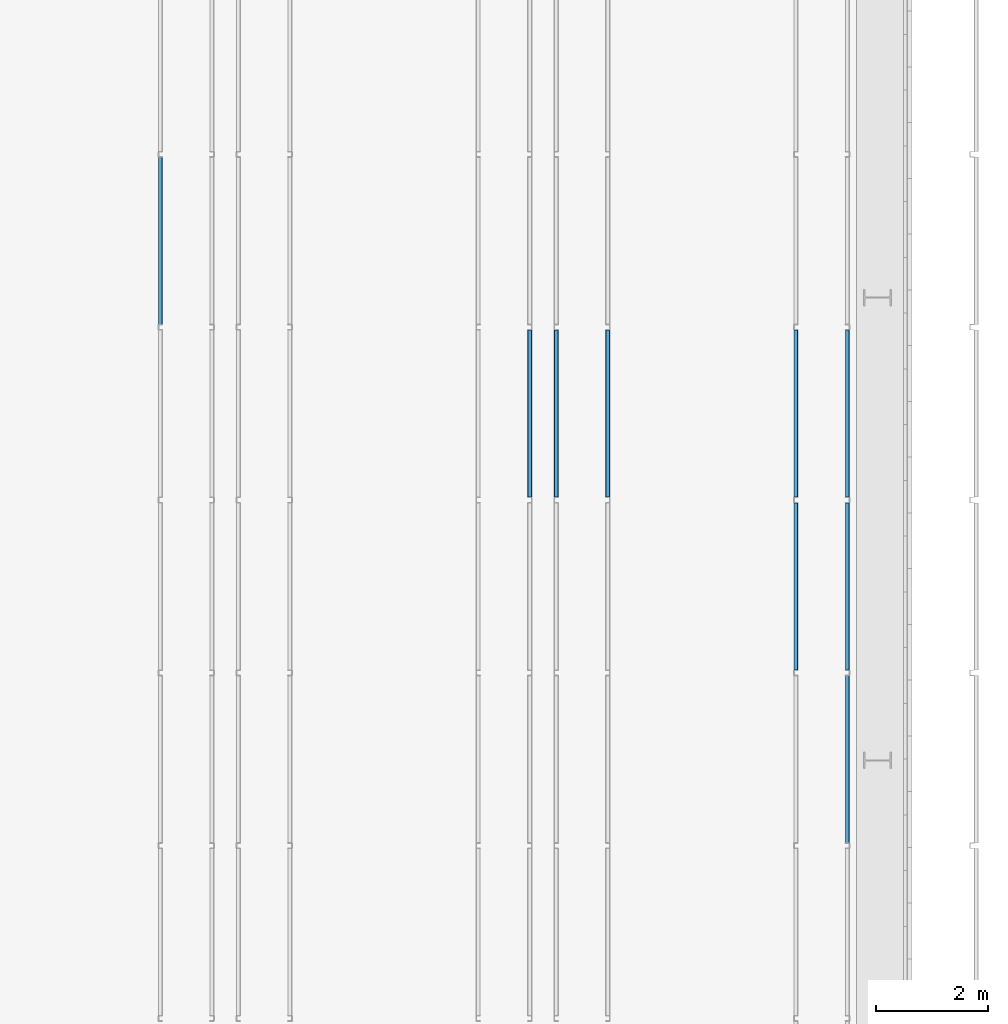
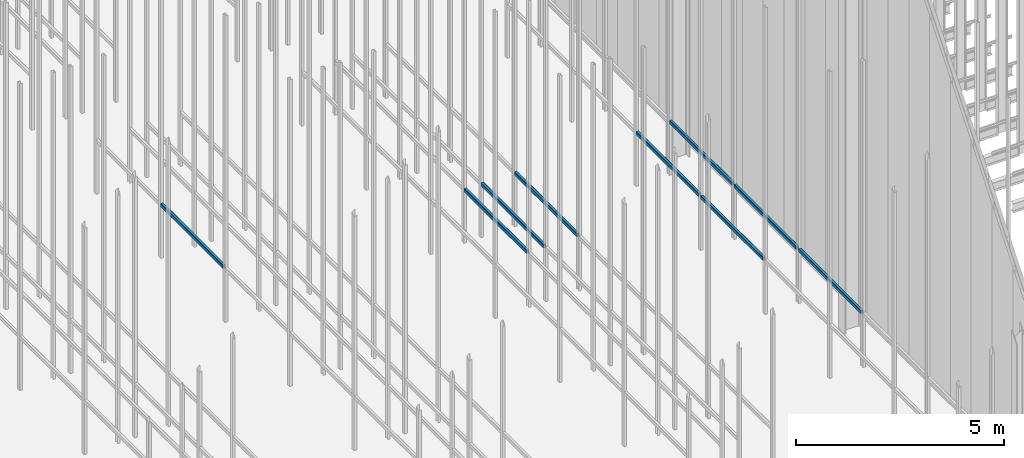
# One storey, part 150 of 302: 9 beams.
"""IFC2X3 building model written with IfcOpenShell, lengths in metres."""

from ifc_helpers import new_model, entity, si_unit, converted_unit, derived_unit, direction, frame, frame_2d, origin, place, context, subcontext, project, spatial, polyline, circle_curve, parameter, trimmed, segment, composite_curve, outline, extrude, material, type_object, element, save


model = new_model("IFC2X3")

# Units and contexts
model_context = context("Model", 3, precision=1e-05, world=origin(), true_north=direction((6.12303176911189e-17, 1.0)))
body_context = subcontext(model_context, "Body", "Model", "MODEL_VIEW")
ifc_project = project(units=[si_unit("LENGTHUNIT", "METRE"), si_unit("AREAUNIT", "SQUARE_METRE"), si_unit("VOLUMEUNIT", "CUBIC_METRE"), converted_unit("PLANEANGLEUNIT", "DEGREE", entity("IfcRatioMeasure", 0.0174532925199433), si_unit("PLANEANGLEUNIT", "RADIAN"), dimensions=[0, 0, 0, 0, 0, 0, 0]), si_unit("MASSUNIT", "GRAM", prefix="KILO"), derived_unit("MASSDENSITYUNIT", [(si_unit("MASSUNIT", "GRAM", prefix="KILO"), 1), (si_unit("LENGTHUNIT", "METRE"), -3)]), derived_unit("MOMENTOFINERTIAUNIT", [(si_unit("LENGTHUNIT", "METRE"), 4)]), si_unit("TIMEUNIT", "SECOND"), si_unit("FREQUENCYUNIT", "HERTZ"), si_unit("THERMODYNAMICTEMPERATUREUNIT", "DEGREE_CELSIUS"), derived_unit("THERMALTRANSMITTANCEUNIT", [(si_unit("MASSUNIT", "GRAM", prefix="KILO"), 1), (si_unit("THERMODYNAMICTEMPERATUREUNIT", "KELVIN"), -1), (si_unit("TIMEUNIT", "SECOND"), -3)]), derived_unit("VOLUMETRICFLOWRATEUNIT", [(si_unit("LENGTHUNIT", "METRE"), 3), (si_unit("TIMEUNIT", "SECOND"), -1)]), si_unit("ELECTRICCURRENTUNIT", "AMPERE"), si_unit("ELECTRICVOLTAGEUNIT", "VOLT"), si_unit("POWERUNIT", "WATT"), si_unit("FORCEUNIT", "NEWTON", prefix="KILO"), si_unit("ILLUMINANCEUNIT", "LUX"), si_unit("LUMINOUSFLUXUNIT", "LUMEN"), si_unit("LUMINOUSINTENSITYUNIT", "CANDELA"), derived_unit("USERDEFINED", [(si_unit("MASSUNIT", "GRAM", prefix="KILO"), -1), (si_unit("LENGTHUNIT", "METRE"), -2), (si_unit("TIMEUNIT", "SECOND"), 3), (si_unit("LUMINOUSFLUXUNIT", "LUMEN"), 1)]), derived_unit("LINEARVELOCITYUNIT", [(si_unit("LENGTHUNIT", "METRE"), 1), (si_unit("TIMEUNIT", "SECOND"), -1)]), si_unit("PRESSUREUNIT", "PASCAL"), derived_unit("USERDEFINED", [(si_unit("LENGTHUNIT", "METRE"), -2), (si_unit("MASSUNIT", "GRAM", prefix="KILO"), 1), (si_unit("TIMEUNIT", "SECOND"), -2)]), derived_unit("LINEARFORCEUNIT", [(si_unit("MASSUNIT", "GRAM", prefix="KILO"), 1), (si_unit("LENGTHUNIT", "METRE"), 1), (si_unit("TIMEUNIT", "SECOND"), -2), (si_unit("LENGTHUNIT", "METRE"), -1)]), derived_unit("PLANARFORCEUNIT", [(si_unit("MASSUNIT", "GRAM", prefix="KILO"), 1), (si_unit("LENGTHUNIT", "METRE"), 1), (si_unit("TIMEUNIT", "SECOND"), -2), (si_unit("LENGTHUNIT", "METRE"), -2)])], contexts=[model_context])

# Site, building, storey
site_placement = place(None, origin())
site = spatial("IfcSite", under=ifc_project, at=site_placement, Name="Default", CompositionType="ELEMENT")
building_placement = place(site_placement, origin())
building = spatial("IfcBuilding", under=site, at=building_placement, CompositionType="ELEMENT")
storey_placement = place(building_placement, frame((0.0, 0.0, -1.3)))
storey = spatial("IfcBuildingStorey", under=building, at=storey_placement, Name="00_EG", CompositionType="ELEMENT", Elevation=-1.3)

# Beams
ifc_material = material(Name="Metall - Baustahl S235 blau")
beam_type = type_object("IfcBeamType", Name="RHS Träger (EN 10219-2):RHS 100 x 75 x 5", PredefinedType="NOTDEFINED")
beam_1_placement = place(storey_placement, frame((-178.465111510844, 30.248088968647, 2.885), z_axis=(0.0, 0.0, 1.0), x_axis=(0.0, 1.0, 0.0)))
element("IfcBeam", 1, at=beam_1_placement, inside=storey, type_object=beam_type, material=ifc_material, Name="RHS Träger (EN 10219-2):RHS 100 x 75 x 5", ObjectType="RHS Träger (EN 10219-2):RHS 100 x 75 x 5", context=body_context, shape_type="SweptSolid", body=[
    extrude(outline(composite_curve([segment(polyline([(-0.0399999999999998, -0.0374999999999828), (0.0400000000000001, -0.0374999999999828)]), True, "CONTINUOUS"), segment(trimmed(circle_curve(frame_2d((0.0399999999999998, -0.0274999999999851), x_axis=(0.0, 1.0)), 0.01), [parameter(180.0)], [parameter(270.0)], True, "PARAMETER"), True, "CONTINUOUS"), segment(polyline([(0.05, -0.0274999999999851), (0.05, 0.0274999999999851)]), True, "CONTINUOUS"), segment(trimmed(circle_curve(frame_2d((0.0399999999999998, 0.0274999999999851), x_axis=(0.0, 1.0)), 0.01), [parameter(270.0)], [parameter(4.07110999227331e-13)], True, "PARAMETER"), True, "CONTINUOUS"), segment(polyline([(0.0400000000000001, 0.0375000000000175), (-0.0399999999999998, 0.0375000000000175)]), True, "CONTINUOUS"), segment(trimmed(circle_curve(frame_2d((-0.0400000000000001, 0.0274999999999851), x_axis=(0.0, 1.0)), 0.01), [parameter(360.0)], [parameter(90.0000000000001)], True, "PARAMETER"), True, "CONTINUOUS"), segment(polyline([(-0.05, 0.0274999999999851), (-0.05, -0.0274999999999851)]), True, "CONTINUOUS"), segment(trimmed(circle_curve(frame_2d((-0.0400000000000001, -0.0274999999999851), x_axis=(0.0, 1.0)), 0.01), [parameter(90.0000000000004)], [parameter(180.0)], True, "PARAMETER"), True, "CONTINUOUS")], self_intersect=False), holes=[composite_curve([segment(trimmed(circle_curve(frame_2d((-0.0400000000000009, 0.0274999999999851), x_axis=(0.0, 1.0)), 0.005), [parameter(360.0)], [parameter(89.9999999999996)], True, "PARAMETER"), False, "CONTINUOUS"), segment(polyline([(-0.0400000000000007, 0.0325000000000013), (0.0399999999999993, 0.0325000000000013)]), True, "CONTINUOUS"), segment(trimmed(circle_curve(frame_2d((0.039999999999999, 0.0274999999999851), x_axis=(0.0, 1.0)), 0.005), [parameter(270.0)], [parameter(0.0)], True, "PARAMETER"), False, "CONTINUOUS"), segment(polyline([(0.0449999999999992, 0.0274999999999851), (0.0449999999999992, -0.0274999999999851)]), True, "CONTINUOUS"), segment(trimmed(circle_curve(frame_2d((0.039999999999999, -0.0274999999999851), x_axis=(0.0, 1.0)), 0.005), [parameter(180.0)], [parameter(269.999999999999)], True, "PARAMETER"), False, "CONTINUOUS"), segment(polyline([(0.0399999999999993, -0.0325000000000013), (-0.0400000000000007, -0.0325000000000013)]), True, "CONTINUOUS"), segment(trimmed(circle_curve(frame_2d((-0.0400000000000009, -0.0274999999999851), x_axis=(0.0, 1.0)), 0.005), [parameter(90.0000000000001)], [parameter(180.0)], True, "PARAMETER"), False, "CONTINUOUS"), segment(polyline([(-0.0450000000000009, -0.0274999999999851), (-0.0450000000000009, 0.0274999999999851)]), True, "CONTINUOUS")], self_intersect=False)]), frame((0.00010000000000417, -0.0375000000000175, -0.0500000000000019), z_axis=(1.0, 0.0, 0.0), x_axis=(0.0, 0.0, -1.0)), (0.0, 0.0, 1.0), 2.9998),
])
beam_2_placement = place(storey_placement, frame((-179.315111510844, 33.3480889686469, 2.885), z_axis=(0.0, 0.0, 1.0), x_axis=(0.0, 1.0, 0.0)))
element("IfcBeam", 2, at=beam_2_placement, inside=storey, type_object=beam_type, material=ifc_material, Name="RHS Träger (EN 10219-2):RHS 100 x 75 x 5", ObjectType="RHS Träger (EN 10219-2):RHS 100 x 75 x 5", context=body_context, shape_type="SweptSolid", body=[
    extrude(outline(composite_curve([segment(trimmed(circle_curve(frame_2d((-0.0274999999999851, -0.0400000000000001), x_axis=(1.0, 0.0)), 0.01), [parameter(180.0)], [parameter(270.0)], True, "PARAMETER"), True, "CONTINUOUS"), segment(polyline([(-0.0274999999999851, -0.05), (0.0274999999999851, -0.05)]), True, "CONTINUOUS"), segment(trimmed(circle_curve(frame_2d((0.0274999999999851, -0.0400000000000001), x_axis=(1.0, 0.0)), 0.01), [parameter(270.0)], [parameter(5.08888749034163e-14)], True, "PARAMETER"), True, "CONTINUOUS"), segment(polyline([(0.0375000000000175, -0.0399999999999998), (0.0375000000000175, 0.0400000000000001)]), True, "CONTINUOUS"), segment(trimmed(circle_curve(frame_2d((0.0274999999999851, 0.0399999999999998), x_axis=(1.0, 0.0)), 0.01), [parameter(360.0)], [parameter(89.9999999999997)], True, "PARAMETER"), True, "CONTINUOUS"), segment(polyline([(0.0274999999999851, 0.05), (-0.0274999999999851, 0.05)]), True, "CONTINUOUS"), segment(trimmed(circle_curve(frame_2d((-0.0274999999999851, 0.0399999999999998), x_axis=(1.0, 0.0)), 0.01), [parameter(90.0000000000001)], [parameter(180.0)], True, "PARAMETER"), True, "CONTINUOUS"), segment(polyline([(-0.0374999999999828, 0.0400000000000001), (-0.0374999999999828, -0.0399999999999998)]), True, "CONTINUOUS")], self_intersect=False), holes=[composite_curve([segment(polyline([(0.0274999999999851, -0.0450000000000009), (-0.0274999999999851, -0.0450000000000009)]), True, "CONTINUOUS"), segment(trimmed(circle_curve(frame_2d((-0.0274999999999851, -0.0400000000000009), x_axis=(1.0, 0.0)), 0.005), [parameter(180.0)], [parameter(270.0)], True, "PARAMETER"), False, "CONTINUOUS"), segment(polyline([(-0.0325000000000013, -0.0400000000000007), (-0.0325000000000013, 0.0399999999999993)]), True, "CONTINUOUS"), segment(trimmed(circle_curve(frame_2d((-0.0274999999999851, 0.039999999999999), x_axis=(1.0, 0.0)), 0.005), [parameter(90.0000000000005)], [parameter(180.0)], True, "PARAMETER"), False, "CONTINUOUS"), segment(polyline([(-0.0274999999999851, 0.0449999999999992), (0.0274999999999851, 0.0449999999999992)]), True, "CONTINUOUS"), segment(trimmed(circle_curve(frame_2d((0.0274999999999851, 0.039999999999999), x_axis=(1.0, 0.0)), 0.005), [parameter(0.0)], [parameter(90.0000000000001)], True, "PARAMETER"), False, "CONTINUOUS"), segment(polyline([(0.0325000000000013, 0.0399999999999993), (0.0325000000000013, -0.0400000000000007)]), True, "CONTINUOUS"), segment(trimmed(circle_curve(frame_2d((0.0274999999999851, -0.0400000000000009), x_axis=(1.0, 0.0)), 0.005), [parameter(270.0)], [parameter(4.07110999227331e-13)], True, "PARAMETER"), False, "CONTINUOUS")], self_intersect=False)]), frame((9.99999999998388e-05, 0.0375000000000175, -0.0500000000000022), z_axis=(1.0, 0.0, 0.0), x_axis=(0.0, -1.0, 0.0)), (0.0, 0.0, 1.0), 2.9998),
])
beam_3_placement = place(storey_placement, frame((-178.465111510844, 33.3480889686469, 2.885), z_axis=(0.0, 0.0, 1.0), x_axis=(0.0, 1.0, 0.0)))
element("IfcBeam", 3, at=beam_3_placement, inside=storey, type_object=beam_type, material=ifc_material, Name="RHS Träger (EN 10219-2):RHS 100 x 75 x 5", ObjectType="RHS Träger (EN 10219-2):RHS 100 x 75 x 5", context=body_context, shape_type="SweptSolid", body=[
    extrude(outline(composite_curve([segment(polyline([(-0.0399999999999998, -0.0374999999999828), (0.0400000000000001, -0.0374999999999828)]), True, "CONTINUOUS"), segment(trimmed(circle_curve(frame_2d((0.0399999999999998, -0.0274999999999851), x_axis=(0.0, 1.0)), 0.01), [parameter(180.0)], [parameter(270.0)], True, "PARAMETER"), True, "CONTINUOUS"), segment(polyline([(0.05, -0.0274999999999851), (0.05, 0.0274999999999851)]), True, "CONTINUOUS"), segment(trimmed(circle_curve(frame_2d((0.0399999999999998, 0.0274999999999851), x_axis=(0.0, 1.0)), 0.01), [parameter(270.0)], [parameter(4.07110999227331e-13)], True, "PARAMETER"), True, "CONTINUOUS"), segment(polyline([(0.0400000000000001, 0.0375000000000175), (-0.0399999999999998, 0.0375000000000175)]), True, "CONTINUOUS"), segment(trimmed(circle_curve(frame_2d((-0.0400000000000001, 0.0274999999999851), x_axis=(0.0, 1.0)), 0.01), [parameter(360.0)], [parameter(90.0000000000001)], True, "PARAMETER"), True, "CONTINUOUS"), segment(polyline([(-0.05, 0.0274999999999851), (-0.05, -0.0274999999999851)]), True, "CONTINUOUS"), segment(trimmed(circle_curve(frame_2d((-0.0400000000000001, -0.0274999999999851), x_axis=(0.0, 1.0)), 0.01), [parameter(90.0000000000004)], [parameter(180.0)], True, "PARAMETER"), True, "CONTINUOUS")], self_intersect=False), holes=[composite_curve([segment(trimmed(circle_curve(frame_2d((-0.0400000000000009, 0.0274999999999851), x_axis=(0.0, 1.0)), 0.005), [parameter(360.0)], [parameter(89.9999999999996)], True, "PARAMETER"), False, "CONTINUOUS"), segment(polyline([(-0.0400000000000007, 0.0325000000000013), (0.0399999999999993, 0.0325000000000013)]), True, "CONTINUOUS"), segment(trimmed(circle_curve(frame_2d((0.039999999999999, 0.0274999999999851), x_axis=(0.0, 1.0)), 0.005), [parameter(270.0)], [parameter(0.0)], True, "PARAMETER"), False, "CONTINUOUS"), segment(polyline([(0.0449999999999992, 0.0274999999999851), (0.0449999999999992, -0.0274999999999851)]), True, "CONTINUOUS"), segment(trimmed(circle_curve(frame_2d((0.039999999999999, -0.0274999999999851), x_axis=(0.0, 1.0)), 0.005), [parameter(180.0)], [parameter(269.999999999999)], True, "PARAMETER"), False, "CONTINUOUS"), segment(polyline([(0.0399999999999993, -0.0325000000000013), (-0.0400000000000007, -0.0325000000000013)]), True, "CONTINUOUS"), segment(trimmed(circle_curve(frame_2d((-0.0400000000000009, -0.0274999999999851), x_axis=(0.0, 1.0)), 0.005), [parameter(90.0000000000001)], [parameter(180.0)], True, "PARAMETER"), False, "CONTINUOUS"), segment(polyline([(-0.0450000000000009, -0.0274999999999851), (-0.0450000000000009, 0.0274999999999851)]), True, "CONTINUOUS")], self_intersect=False)]), frame((9.99999999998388e-05, -0.0375000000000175, -0.0500000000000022), z_axis=(1.0, 0.0, 0.0), x_axis=(0.0, 0.0, -1.0)), (0.0, 0.0, 1.0), 2.9998),
])
beam_4_placement = place(storey_placement, frame((-184.165111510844, 36.448088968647, 2.885), z_axis=(0.0, 0.0, 1.0), x_axis=(0.0, 1.0, 0.0)))
element("IfcBeam", 4, at=beam_4_placement, inside=storey, type_object=beam_type, material=ifc_material, Name="RHS Träger (EN 10219-2):RHS 100 x 75 x 5", ObjectType="RHS Träger (EN 10219-2):RHS 100 x 75 x 5", context=body_context, shape_type="SweptSolid", body=[
    extrude(outline(composite_curve([segment(polyline([(-0.0399999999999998, -0.0374999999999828), (0.0400000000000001, -0.0374999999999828)]), True, "CONTINUOUS"), segment(trimmed(circle_curve(frame_2d((0.0399999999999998, -0.0274999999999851), x_axis=(0.0, 1.0)), 0.01), [parameter(180.0)], [parameter(270.0)], True, "PARAMETER"), True, "CONTINUOUS"), segment(polyline([(0.05, -0.0274999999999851), (0.05, 0.0274999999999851)]), True, "CONTINUOUS"), segment(trimmed(circle_curve(frame_2d((0.0399999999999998, 0.0274999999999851), x_axis=(0.0, 1.0)), 0.01), [parameter(270.0)], [parameter(4.07110999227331e-13)], True, "PARAMETER"), True, "CONTINUOUS"), segment(polyline([(0.0400000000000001, 0.0375000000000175), (-0.0399999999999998, 0.0375000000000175)]), True, "CONTINUOUS"), segment(trimmed(circle_curve(frame_2d((-0.0400000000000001, 0.0274999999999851), x_axis=(0.0, 1.0)), 0.01), [parameter(360.0)], [parameter(90.0000000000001)], True, "PARAMETER"), True, "CONTINUOUS"), segment(polyline([(-0.05, 0.0274999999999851), (-0.05, -0.0274999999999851)]), True, "CONTINUOUS"), segment(trimmed(circle_curve(frame_2d((-0.0400000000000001, -0.0274999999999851), x_axis=(0.0, 1.0)), 0.01), [parameter(90.0000000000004)], [parameter(180.0)], True, "PARAMETER"), True, "CONTINUOUS")], self_intersect=False), holes=[composite_curve([segment(trimmed(circle_curve(frame_2d((-0.0400000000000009, 0.0274999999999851), x_axis=(0.0, 1.0)), 0.005), [parameter(360.0)], [parameter(89.9999999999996)], True, "PARAMETER"), False, "CONTINUOUS"), segment(polyline([(-0.0400000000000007, 0.0325000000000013), (0.0399999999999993, 0.0325000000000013)]), True, "CONTINUOUS"), segment(trimmed(circle_curve(frame_2d((0.039999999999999, 0.0274999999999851), x_axis=(0.0, 1.0)), 0.005), [parameter(270.0)], [parameter(0.0)], True, "PARAMETER"), False, "CONTINUOUS"), segment(polyline([(0.0449999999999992, 0.0274999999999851), (0.0449999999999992, -0.0274999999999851)]), True, "CONTINUOUS"), segment(trimmed(circle_curve(frame_2d((0.039999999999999, -0.0274999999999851), x_axis=(0.0, 1.0)), 0.005), [parameter(180.0)], [parameter(269.999999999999)], True, "PARAMETER"), False, "CONTINUOUS"), segment(polyline([(0.0399999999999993, -0.0325000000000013), (-0.0400000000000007, -0.0325000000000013)]), True, "CONTINUOUS"), segment(trimmed(circle_curve(frame_2d((-0.0400000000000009, -0.0274999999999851), x_axis=(0.0, 1.0)), 0.005), [parameter(90.0000000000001)], [parameter(180.0)], True, "PARAMETER"), False, "CONTINUOUS"), segment(polyline([(-0.0450000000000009, -0.0274999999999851), (-0.0450000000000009, 0.0274999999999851)]), True, "CONTINUOUS")], self_intersect=False)]), frame((0.00010000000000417, -0.0375000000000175, -0.0500000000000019), z_axis=(1.0, 0.0, 0.0), x_axis=(0.0, 0.0, -1.0)), (0.0, 0.0, 1.0), 2.9998),
])
beam_5_placement = place(storey_placement, frame((-183.615111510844, 36.448088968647, 2.885), z_axis=(0.0, 0.0, 1.0), x_axis=(0.0, 1.0, 0.0)))
element("IfcBeam", 5, at=beam_5_placement, inside=storey, type_object=beam_type, material=ifc_material, Name="RHS Träger (EN 10219-2):RHS 100 x 75 x 5", ObjectType="RHS Träger (EN 10219-2):RHS 100 x 75 x 5", context=body_context, shape_type="SweptSolid", body=[
    extrude(outline(composite_curve([segment(trimmed(circle_curve(frame_2d((-0.0274999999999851, -0.0400000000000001), x_axis=(1.0, 0.0)), 0.01), [parameter(180.0)], [parameter(270.0)], True, "PARAMETER"), True, "CONTINUOUS"), segment(polyline([(-0.0274999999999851, -0.05), (0.0274999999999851, -0.05)]), True, "CONTINUOUS"), segment(trimmed(circle_curve(frame_2d((0.0274999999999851, -0.0400000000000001), x_axis=(1.0, 0.0)), 0.01), [parameter(270.0)], [parameter(5.08888749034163e-14)], True, "PARAMETER"), True, "CONTINUOUS"), segment(polyline([(0.0375000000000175, -0.0399999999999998), (0.0375000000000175, 0.0400000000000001)]), True, "CONTINUOUS"), segment(trimmed(circle_curve(frame_2d((0.0274999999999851, 0.0399999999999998), x_axis=(1.0, 0.0)), 0.01), [parameter(360.0)], [parameter(89.9999999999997)], True, "PARAMETER"), True, "CONTINUOUS"), segment(polyline([(0.0274999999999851, 0.05), (-0.0274999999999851, 0.05)]), True, "CONTINUOUS"), segment(trimmed(circle_curve(frame_2d((-0.0274999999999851, 0.0399999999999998), x_axis=(1.0, 0.0)), 0.01), [parameter(90.0000000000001)], [parameter(180.0)], True, "PARAMETER"), True, "CONTINUOUS"), segment(polyline([(-0.0374999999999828, 0.0400000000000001), (-0.0374999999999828, -0.0399999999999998)]), True, "CONTINUOUS")], self_intersect=False), holes=[composite_curve([segment(polyline([(0.0274999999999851, -0.0450000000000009), (-0.0274999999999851, -0.0450000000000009)]), True, "CONTINUOUS"), segment(trimmed(circle_curve(frame_2d((-0.0274999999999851, -0.0400000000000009), x_axis=(1.0, 0.0)), 0.005), [parameter(180.0)], [parameter(270.0)], True, "PARAMETER"), False, "CONTINUOUS"), segment(polyline([(-0.0325000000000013, -0.0400000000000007), (-0.0325000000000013, 0.0399999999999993)]), True, "CONTINUOUS"), segment(trimmed(circle_curve(frame_2d((-0.0274999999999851, 0.039999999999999), x_axis=(1.0, 0.0)), 0.005), [parameter(90.0000000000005)], [parameter(180.0)], True, "PARAMETER"), False, "CONTINUOUS"), segment(polyline([(-0.0274999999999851, 0.0449999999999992), (0.0274999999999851, 0.0449999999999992)]), True, "CONTINUOUS"), segment(trimmed(circle_curve(frame_2d((0.0274999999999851, 0.039999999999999), x_axis=(1.0, 0.0)), 0.005), [parameter(0.0)], [parameter(90.0000000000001)], True, "PARAMETER"), False, "CONTINUOUS"), segment(polyline([(0.0325000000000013, 0.0399999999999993), (0.0325000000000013, -0.0400000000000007)]), True, "CONTINUOUS"), segment(trimmed(circle_curve(frame_2d((0.0274999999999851, -0.0400000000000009), x_axis=(1.0, 0.0)), 0.005), [parameter(270.0)], [parameter(4.07110999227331e-13)], True, "PARAMETER"), False, "CONTINUOUS")], self_intersect=False)]), frame((9.99999999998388e-05, 0.0375000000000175, -0.0500000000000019), z_axis=(1.0, 0.0, 0.0), x_axis=(0.0, -1.0, 0.0)), (0.0, 0.0, 1.0), 2.9998),
])
beam_6_placement = place(storey_placement, frame((-182.765111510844, 36.448088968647, 2.885), z_axis=(0.0, 0.0, 1.0), x_axis=(0.0, 1.0, 0.0)))
element("IfcBeam", 6, at=beam_6_placement, inside=storey, type_object=beam_type, material=ifc_material, Name="RHS Träger (EN 10219-2):RHS 100 x 75 x 5", ObjectType="RHS Träger (EN 10219-2):RHS 100 x 75 x 5", context=body_context, shape_type="SweptSolid", body=[
    extrude(outline(composite_curve([segment(polyline([(-0.0399999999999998, -0.0374999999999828), (0.0400000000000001, -0.0374999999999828)]), True, "CONTINUOUS"), segment(trimmed(circle_curve(frame_2d((0.0399999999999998, -0.0274999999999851), x_axis=(0.0, 1.0)), 0.01), [parameter(180.0)], [parameter(270.0)], True, "PARAMETER"), True, "CONTINUOUS"), segment(polyline([(0.05, -0.0274999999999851), (0.05, 0.0274999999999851)]), True, "CONTINUOUS"), segment(trimmed(circle_curve(frame_2d((0.0399999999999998, 0.0274999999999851), x_axis=(0.0, 1.0)), 0.01), [parameter(270.0)], [parameter(4.07110999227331e-13)], True, "PARAMETER"), True, "CONTINUOUS"), segment(polyline([(0.0400000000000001, 0.0375000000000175), (-0.0399999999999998, 0.0375000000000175)]), True, "CONTINUOUS"), segment(trimmed(circle_curve(frame_2d((-0.0400000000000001, 0.0274999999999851), x_axis=(0.0, 1.0)), 0.01), [parameter(360.0)], [parameter(90.0000000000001)], True, "PARAMETER"), True, "CONTINUOUS"), segment(polyline([(-0.05, 0.0274999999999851), (-0.05, -0.0274999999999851)]), True, "CONTINUOUS"), segment(trimmed(circle_curve(frame_2d((-0.0400000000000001, -0.0274999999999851), x_axis=(0.0, 1.0)), 0.01), [parameter(90.0000000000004)], [parameter(180.0)], True, "PARAMETER"), True, "CONTINUOUS")], self_intersect=False), holes=[composite_curve([segment(trimmed(circle_curve(frame_2d((-0.0400000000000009, 0.0274999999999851), x_axis=(0.0, 1.0)), 0.005), [parameter(360.0)], [parameter(89.9999999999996)], True, "PARAMETER"), False, "CONTINUOUS"), segment(polyline([(-0.0400000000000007, 0.0325000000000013), (0.0399999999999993, 0.0325000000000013)]), True, "CONTINUOUS"), segment(trimmed(circle_curve(frame_2d((0.039999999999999, 0.0274999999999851), x_axis=(0.0, 1.0)), 0.005), [parameter(270.0)], [parameter(0.0)], True, "PARAMETER"), False, "CONTINUOUS"), segment(polyline([(0.0449999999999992, 0.0274999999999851), (0.0449999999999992, -0.0274999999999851)]), True, "CONTINUOUS"), segment(trimmed(circle_curve(frame_2d((0.039999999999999, -0.0274999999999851), x_axis=(0.0, 1.0)), 0.005), [parameter(180.0)], [parameter(269.999999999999)], True, "PARAMETER"), False, "CONTINUOUS"), segment(polyline([(0.0399999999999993, -0.0325000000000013), (-0.0400000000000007, -0.0325000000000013)]), True, "CONTINUOUS"), segment(trimmed(circle_curve(frame_2d((-0.0400000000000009, -0.0274999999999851), x_axis=(0.0, 1.0)), 0.005), [parameter(90.0000000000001)], [parameter(180.0)], True, "PARAMETER"), False, "CONTINUOUS"), segment(polyline([(-0.0450000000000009, -0.0274999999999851), (-0.0450000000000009, 0.0274999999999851)]), True, "CONTINUOUS")], self_intersect=False)]), frame((0.00010000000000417, -0.0375000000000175, -0.0500000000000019), z_axis=(1.0, 0.0, 0.0), x_axis=(0.0, 0.0, -1.0)), (0.0, 0.0, 1.0), 2.9998),
])
beam_7_placement = place(storey_placement, frame((-179.315111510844, 36.448088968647, 2.885), z_axis=(0.0, 0.0, 1.0), x_axis=(0.0, 1.0, 0.0)))
element("IfcBeam", 7, at=beam_7_placement, inside=storey, type_object=beam_type, material=ifc_material, Name="RHS Träger (EN 10219-2):RHS 100 x 75 x 5", ObjectType="RHS Träger (EN 10219-2):RHS 100 x 75 x 5", context=body_context, shape_type="SweptSolid", body=[
    extrude(outline(composite_curve([segment(trimmed(circle_curve(frame_2d((-0.0274999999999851, -0.0400000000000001), x_axis=(1.0, 0.0)), 0.01), [parameter(180.0)], [parameter(270.0)], True, "PARAMETER"), True, "CONTINUOUS"), segment(polyline([(-0.0274999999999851, -0.05), (0.0274999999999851, -0.05)]), True, "CONTINUOUS"), segment(trimmed(circle_curve(frame_2d((0.0274999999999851, -0.0400000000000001), x_axis=(1.0, 0.0)), 0.01), [parameter(270.0)], [parameter(5.08888749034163e-14)], True, "PARAMETER"), True, "CONTINUOUS"), segment(polyline([(0.0375000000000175, -0.0399999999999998), (0.0375000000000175, 0.0400000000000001)]), True, "CONTINUOUS"), segment(trimmed(circle_curve(frame_2d((0.0274999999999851, 0.0399999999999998), x_axis=(1.0, 0.0)), 0.01), [parameter(360.0)], [parameter(89.9999999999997)], True, "PARAMETER"), True, "CONTINUOUS"), segment(polyline([(0.0274999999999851, 0.05), (-0.0274999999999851, 0.05)]), True, "CONTINUOUS"), segment(trimmed(circle_curve(frame_2d((-0.0274999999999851, 0.0399999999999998), x_axis=(1.0, 0.0)), 0.01), [parameter(90.0000000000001)], [parameter(180.0)], True, "PARAMETER"), True, "CONTINUOUS"), segment(polyline([(-0.0374999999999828, 0.0400000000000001), (-0.0374999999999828, -0.0399999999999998)]), True, "CONTINUOUS")], self_intersect=False), holes=[composite_curve([segment(polyline([(0.0274999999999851, -0.0450000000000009), (-0.0274999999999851, -0.0450000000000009)]), True, "CONTINUOUS"), segment(trimmed(circle_curve(frame_2d((-0.0274999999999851, -0.0400000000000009), x_axis=(1.0, 0.0)), 0.005), [parameter(180.0)], [parameter(270.0)], True, "PARAMETER"), False, "CONTINUOUS"), segment(polyline([(-0.0325000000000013, -0.0400000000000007), (-0.0325000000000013, 0.0399999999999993)]), True, "CONTINUOUS"), segment(trimmed(circle_curve(frame_2d((-0.0274999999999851, 0.039999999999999), x_axis=(1.0, 0.0)), 0.005), [parameter(90.0000000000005)], [parameter(180.0)], True, "PARAMETER"), False, "CONTINUOUS"), segment(polyline([(-0.0274999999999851, 0.0449999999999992), (0.0274999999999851, 0.0449999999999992)]), True, "CONTINUOUS"), segment(trimmed(circle_curve(frame_2d((0.0274999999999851, 0.039999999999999), x_axis=(1.0, 0.0)), 0.005), [parameter(0.0)], [parameter(90.0000000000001)], True, "PARAMETER"), False, "CONTINUOUS"), segment(polyline([(0.0325000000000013, 0.0399999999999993), (0.0325000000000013, -0.0400000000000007)]), True, "CONTINUOUS"), segment(trimmed(circle_curve(frame_2d((0.0274999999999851, -0.0400000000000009), x_axis=(1.0, 0.0)), 0.005), [parameter(270.0)], [parameter(4.07110999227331e-13)], True, "PARAMETER"), False, "CONTINUOUS")], self_intersect=False)]), frame((9.99999999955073e-05, 0.0375000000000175, -0.0500000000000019), z_axis=(1.0, 0.0, 0.0), x_axis=(0.0, -1.0, 0.0)), (0.0, 0.0, 1.0), 2.9998),
])
beam_8_placement = place(storey_placement, frame((-178.465111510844, 36.448088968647, 2.885), z_axis=(0.0, 0.0, 1.0), x_axis=(0.0, 1.0, 0.0)))
element("IfcBeam", 8, at=beam_8_placement, inside=storey, type_object=beam_type, material=ifc_material, Name="RHS Träger (EN 10219-2):RHS 100 x 75 x 5", ObjectType="RHS Träger (EN 10219-2):RHS 100 x 75 x 5", context=body_context, shape_type="SweptSolid", body=[
    extrude(outline(composite_curve([segment(polyline([(-0.0399999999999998, -0.0374999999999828), (0.0400000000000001, -0.0374999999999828)]), True, "CONTINUOUS"), segment(trimmed(circle_curve(frame_2d((0.0399999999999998, -0.0274999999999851), x_axis=(0.0, 1.0)), 0.01), [parameter(180.0)], [parameter(270.0)], True, "PARAMETER"), True, "CONTINUOUS"), segment(polyline([(0.05, -0.0274999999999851), (0.05, 0.0274999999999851)]), True, "CONTINUOUS"), segment(trimmed(circle_curve(frame_2d((0.0399999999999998, 0.0274999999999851), x_axis=(0.0, 1.0)), 0.01), [parameter(270.0)], [parameter(4.07110999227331e-13)], True, "PARAMETER"), True, "CONTINUOUS"), segment(polyline([(0.0400000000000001, 0.0375000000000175), (-0.0399999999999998, 0.0375000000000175)]), True, "CONTINUOUS"), segment(trimmed(circle_curve(frame_2d((-0.0400000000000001, 0.0274999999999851), x_axis=(0.0, 1.0)), 0.01), [parameter(360.0)], [parameter(90.0000000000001)], True, "PARAMETER"), True, "CONTINUOUS"), segment(polyline([(-0.05, 0.0274999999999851), (-0.05, -0.0274999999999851)]), True, "CONTINUOUS"), segment(trimmed(circle_curve(frame_2d((-0.0400000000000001, -0.0274999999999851), x_axis=(0.0, 1.0)), 0.01), [parameter(90.0000000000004)], [parameter(180.0)], True, "PARAMETER"), True, "CONTINUOUS")], self_intersect=False), holes=[composite_curve([segment(trimmed(circle_curve(frame_2d((-0.0400000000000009, 0.0274999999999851), x_axis=(0.0, 1.0)), 0.005), [parameter(360.0)], [parameter(89.9999999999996)], True, "PARAMETER"), False, "CONTINUOUS"), segment(polyline([(-0.0400000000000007, 0.0325000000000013), (0.0399999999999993, 0.0325000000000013)]), True, "CONTINUOUS"), segment(trimmed(circle_curve(frame_2d((0.039999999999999, 0.0274999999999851), x_axis=(0.0, 1.0)), 0.005), [parameter(270.0)], [parameter(0.0)], True, "PARAMETER"), False, "CONTINUOUS"), segment(polyline([(0.0449999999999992, 0.0274999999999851), (0.0449999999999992, -0.0274999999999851)]), True, "CONTINUOUS"), segment(trimmed(circle_curve(frame_2d((0.039999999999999, -0.0274999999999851), x_axis=(0.0, 1.0)), 0.005), [parameter(180.0)], [parameter(269.999999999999)], True, "PARAMETER"), False, "CONTINUOUS"), segment(polyline([(0.0399999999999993, -0.0325000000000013), (-0.0400000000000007, -0.0325000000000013)]), True, "CONTINUOUS"), segment(trimmed(circle_curve(frame_2d((-0.0400000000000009, -0.0274999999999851), x_axis=(0.0, 1.0)), 0.005), [parameter(90.0000000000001)], [parameter(180.0)], True, "PARAMETER"), False, "CONTINUOUS"), segment(polyline([(-0.0450000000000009, -0.0274999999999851), (-0.0450000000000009, 0.0274999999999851)]), True, "CONTINUOUS")], self_intersect=False)]), frame((9.99999999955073e-05, -0.0375000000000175, -0.0500000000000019), z_axis=(1.0, 0.0, 0.0), x_axis=(0.0, 0.0, -1.0)), (0.0, 0.0, 1.0), 2.9998),
])
beam_9_placement = place(storey_placement, frame((-190.715111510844, 39.548088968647, 2.885), z_axis=(0.0, 0.0, 1.0), x_axis=(0.0, 1.0, 0.0)))
element("IfcBeam", 9, at=beam_9_placement, inside=storey, type_object=beam_type, material=ifc_material, Name="RHS Träger (EN 10219-2):RHS 100 x 75 x 5", ObjectType="RHS Träger (EN 10219-2):RHS 100 x 75 x 5", context=body_context, shape_type="SweptSolid", body=[
    extrude(outline(composite_curve([segment(trimmed(circle_curve(frame_2d((-0.0274999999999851, -0.0400000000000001), x_axis=(1.0, 0.0)), 0.01), [parameter(180.0)], [parameter(270.0)], True, "PARAMETER"), True, "CONTINUOUS"), segment(polyline([(-0.0274999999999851, -0.05), (0.0274999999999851, -0.05)]), True, "CONTINUOUS"), segment(trimmed(circle_curve(frame_2d((0.0274999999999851, -0.0400000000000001), x_axis=(1.0, 0.0)), 0.01), [parameter(270.0)], [parameter(5.08888749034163e-14)], True, "PARAMETER"), True, "CONTINUOUS"), segment(polyline([(0.0375000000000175, -0.0399999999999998), (0.0375000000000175, 0.0400000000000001)]), True, "CONTINUOUS"), segment(trimmed(circle_curve(frame_2d((0.0274999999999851, 0.0399999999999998), x_axis=(1.0, 0.0)), 0.01), [parameter(360.0)], [parameter(89.9999999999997)], True, "PARAMETER"), True, "CONTINUOUS"), segment(polyline([(0.0274999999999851, 0.05), (-0.0274999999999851, 0.05)]), True, "CONTINUOUS"), segment(trimmed(circle_curve(frame_2d((-0.0274999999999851, 0.0399999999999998), x_axis=(1.0, 0.0)), 0.01), [parameter(90.0000000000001)], [parameter(180.0)], True, "PARAMETER"), True, "CONTINUOUS"), segment(polyline([(-0.0374999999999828, 0.0400000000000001), (-0.0374999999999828, -0.0399999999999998)]), True, "CONTINUOUS")], self_intersect=False), holes=[composite_curve([segment(polyline([(0.0274999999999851, -0.0450000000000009), (-0.0274999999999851, -0.0450000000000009)]), True, "CONTINUOUS"), segment(trimmed(circle_curve(frame_2d((-0.0274999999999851, -0.0400000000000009), x_axis=(1.0, 0.0)), 0.005), [parameter(180.0)], [parameter(270.0)], True, "PARAMETER"), False, "CONTINUOUS"), segment(polyline([(-0.0325000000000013, -0.0400000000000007), (-0.0325000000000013, 0.0399999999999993)]), True, "CONTINUOUS"), segment(trimmed(circle_curve(frame_2d((-0.0274999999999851, 0.039999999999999), x_axis=(1.0, 0.0)), 0.005), [parameter(90.0000000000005)], [parameter(180.0)], True, "PARAMETER"), False, "CONTINUOUS"), segment(polyline([(-0.0274999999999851, 0.0449999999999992), (0.0274999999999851, 0.0449999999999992)]), True, "CONTINUOUS"), segment(trimmed(circle_curve(frame_2d((0.0274999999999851, 0.039999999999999), x_axis=(1.0, 0.0)), 0.005), [parameter(0.0)], [parameter(90.0000000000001)], True, "PARAMETER"), False, "CONTINUOUS"), segment(polyline([(0.0325000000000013, 0.0399999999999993), (0.0325000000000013, -0.0400000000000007)]), True, "CONTINUOUS"), segment(trimmed(circle_curve(frame_2d((0.0274999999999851, -0.0400000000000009), x_axis=(1.0, 0.0)), 0.005), [parameter(270.0)], [parameter(4.07110999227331e-13)], True, "PARAMETER"), False, "CONTINUOUS")], self_intersect=False)]), frame((9.99999999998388e-05, 0.0375000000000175, -0.0500000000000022), z_axis=(1.0, 0.0, 0.0), x_axis=(0.0, -1.0, 0.0)), (0.0, 0.0, 1.0), 2.99979999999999),
])

save(model, "model.ifc")
